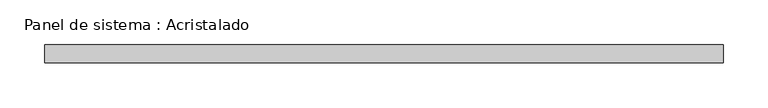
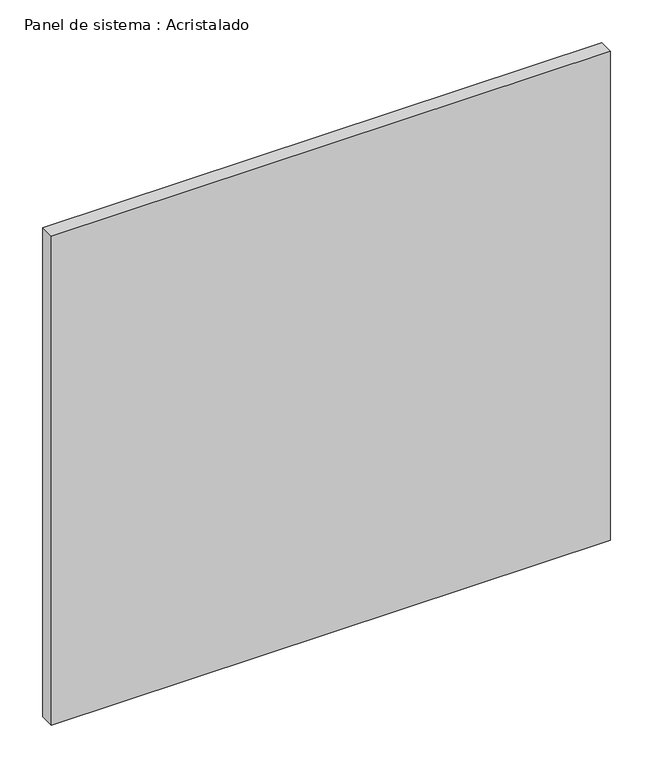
"""IFC4 building model written with IfcOpenShell, lengths in millimetres: plate geometry, Panel de sistema : Acristalado."""

from ifc_helpers import new_model, si_unit, origin, origin_with_axes, place, context, project, spatial, polyline, outline, extrude, source, transform, mapped, element, save


def panel_de_sistema_acristalado_9899330d(model_context):
    return source(origin(), model_context, "Body", "SweptSolid", [
        extrude(outline(polyline([(378.3333334, -10.0), (-378.3333334, -10.0), (-378.3333334, 10.0), (378.3333334, 10.0), (378.3333334, -10.0)])), origin_with_axes(), (0.0, 0.0, 1.0), 700.0),
    ])


if __name__ == "__main__":
    model = new_model("IFC4")
    model_context = context("Model", 3, world=origin())
    ifc_project = project(units=[si_unit("LENGTHUNIT", "METRE", prefix="MILLI")], contexts=[model_context])
    site = spatial("IfcSite", under=ifc_project)
    building = spatial("IfcBuilding", under=site)
    placement = place(None, origin())
    panel_de_sistema_acristalado_shape = panel_de_sistema_acristalado_9899330d(model_context)
    element("IfcPlate", 1, ObjectType="Panel de sistema : Acristalado", at=placement, inside=building, context=model_context, shape_type="MappedRepresentation", body=[
        mapped(panel_de_sistema_acristalado_shape, transform((0.0, 0.0, 0.0), x_axis=(1.0, 0.0, 0.0), y_axis=(0.0, 1.0, 0.0), z_axis=(0.0, 0.0, 1.0))),
    ])
    save(model, "model.ifc")
